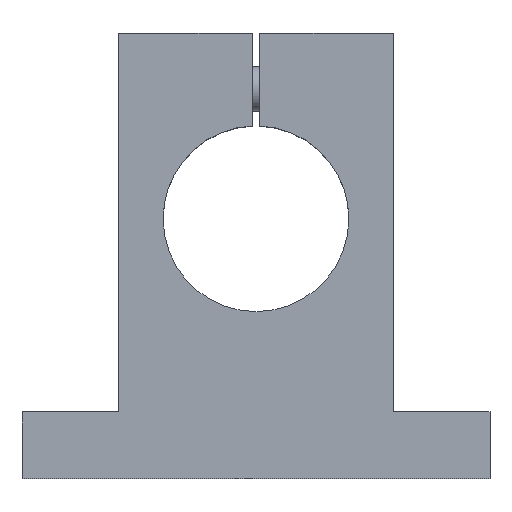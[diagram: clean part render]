
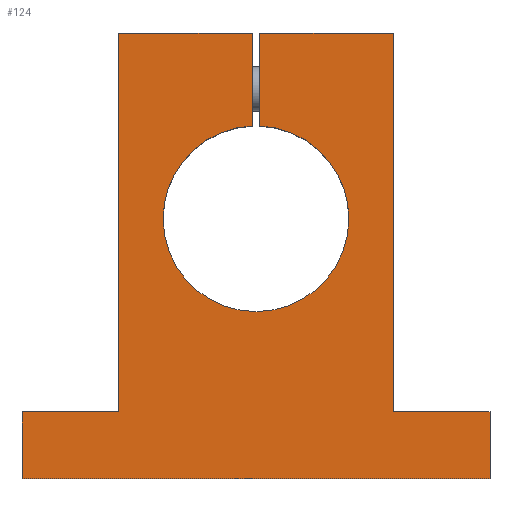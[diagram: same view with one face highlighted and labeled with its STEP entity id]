
A CAD part, top view. The second image highlights one B-rep face of the part: STEP entity #124.
In plain terms, the highlighted planar face has unit normal (0, 0, 1).
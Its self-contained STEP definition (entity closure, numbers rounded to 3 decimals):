
#124=ADVANCED_FACE('',(#161),#162,.F.);
#161=FACE_OUTER_BOUND('',#249,.T.);
#162=PLANE('',#250);
#249=EDGE_LOOP('',(#342,#343,#344,#345,#346,#347,#348,#349,#350,#351,#352,#353));
#250=AXIS2_PLACEMENT_3D('',#354,#355,#356);
#342=ORIENTED_EDGE('',*,*,#581,.T.);
#343=ORIENTED_EDGE('',*,*,#582,.T.);
#344=ORIENTED_EDGE('',*,*,#583,.T.);
#345=ORIENTED_EDGE('',*,*,#584,.T.);
#346=ORIENTED_EDGE('',*,*,#585,.T.);
#347=ORIENTED_EDGE('',*,*,#586,.T.);
#348=ORIENTED_EDGE('',*,*,#587,.T.);
#349=ORIENTED_EDGE('',*,*,#588,.T.);
#350=ORIENTED_EDGE('',*,*,#589,.T.);
#351=ORIENTED_EDGE('',*,*,#590,.T.);
#352=ORIENTED_EDGE('',*,*,#591,.T.);
#353=ORIENTED_EDGE('',*,*,#579,.T.);
#354=CARTESIAN_POINT('',(0.0,70.0,40.0));
#355=DIRECTION('',(0.0,0.0,-1.0));
#356=DIRECTION('',(1.0,0.,0.0));
#579=EDGE_CURVE('',#653,#651,#654,.T.);
#581=EDGE_CURVE('',#651,#656,#657,.T.);
#582=EDGE_CURVE('',#656,#658,#659,.T.);
#583=EDGE_CURVE('',#658,#660,#661,.T.);
#584=EDGE_CURVE('',#660,#662,#663,.T.);
#585=EDGE_CURVE('',#662,#664,#665,.T.);
#586=EDGE_CURVE('',#664,#666,#667,.T.);
#587=EDGE_CURVE('',#666,#668,#669,.T.);
#588=EDGE_CURVE('',#668,#670,#671,.T.);
#589=EDGE_CURVE('',#670,#672,#673,.T.);
#590=EDGE_CURVE('',#672,#674,#675,.T.);
#591=EDGE_CURVE('',#674,#653,#676,.T.);
#651=VERTEX_POINT('',#774);
#653=VERTEX_POINT('',#777);
#654=LINE('',#778,#779);
#656=VERTEX_POINT('',#782);
#657=LINE('',#783,#784);
#658=VERTEX_POINT('',#785);
#659=LINE('',#786,#787);
#660=VERTEX_POINT('',#788);
#661=LINE('',#789,#790);
#662=VERTEX_POINT('',#791);
#663=LINE('',#792,#793);
#664=VERTEX_POINT('',#794);
#665=LINE('',#795,#796);
#666=VERTEX_POINT('',#797);
#667=LINE('',#798,#799);
#668=VERTEX_POINT('',#800);
#669=LINE('',#801,#802);
#670=VERTEX_POINT('',#803);
#671=LINE('',#804,#805);
#672=VERTEX_POINT('',#806);
#673=LINE('',#807,#808);
#674=VERTEX_POINT('',#809);
#675=LINE('',#810,#811);
#676=CIRCLE('',#812,25.0);
#774=CARTESIAN_POINT('',(-1.0,120.0,40.0));
#777=CARTESIAN_POINT('',(-1.,94.98,40.0));
#778=CARTESIAN_POINT('',(-1.0,94.98,40.0));
#779=VECTOR('',#980,1.0);
#782=CARTESIAN_POINT('',(-37.0,120.0,40.0));
#783=CARTESIAN_POINT('',(-1.,120.0,40.0));
#784=VECTOR('',#982,1.0);
#785=CARTESIAN_POINT('',(-37.0,18.0,40.0));
#786=CARTESIAN_POINT('',(-37.0,120.0,40.0));
#787=VECTOR('',#983,1.0);
#788=CARTESIAN_POINT('',(-63.0,18.0,40.0));
#789=CARTESIAN_POINT('',(-37.0,18.0,40.0));
#790=VECTOR('',#984,1.0);
#791=CARTESIAN_POINT('',(-63.0,0.0,40.0));
#792=CARTESIAN_POINT('',(-63.0,18.0,40.0));
#793=VECTOR('',#985,1.0);
#794=CARTESIAN_POINT('',(63.0,0.0,40.0));
#795=CARTESIAN_POINT('',(-63.0,0.,40.0));
#796=VECTOR('',#986,1.0);
#797=CARTESIAN_POINT('',(63.0,18.0,40.0));
#798=CARTESIAN_POINT('',(63.0,0.0,40.0));
#799=VECTOR('',#987,1.0);
#800=CARTESIAN_POINT('',(37.0,18.0,40.0));
#801=CARTESIAN_POINT('',(63.0,18.0,40.0));
#802=VECTOR('',#988,1.0);
#803=CARTESIAN_POINT('',(37.0,120.0,40.0));
#804=CARTESIAN_POINT('',(37.0,18.0,40.0));
#805=VECTOR('',#989,1.0);
#806=CARTESIAN_POINT('',(1.,120.0,40.0));
#807=CARTESIAN_POINT('',(37.0,120.0,40.0));
#808=VECTOR('',#990,1.0);
#809=CARTESIAN_POINT('',(1.0,94.98,40.0));
#810=CARTESIAN_POINT('',(1.0,120.0,40.0));
#811=VECTOR('',#991,1.0);
#812=AXIS2_PLACEMENT_3D('',#992,#993,#994);
#980=DIRECTION('',(0.,1.0,0.0));
#982=DIRECTION('',(-1.0,0.0,0.0));
#983=DIRECTION('',(0.,-1.0,0.0));
#984=DIRECTION('',(-1.0,0.0,0.0));
#985=DIRECTION('',(0.,-1.0,0.0));
#986=DIRECTION('',(1.0,0.0,0.0));
#987=DIRECTION('',(0.,1.0,0.0));
#988=DIRECTION('',(-1.0,0.0,0.0));
#989=DIRECTION('',(0.,1.0,0.0));
#990=DIRECTION('',(-1.0,0.0,0.0));
#991=DIRECTION('',(0.,-1.0,0.0));
#992=CARTESIAN_POINT('',(0.0,70.0,40.0));
#993=DIRECTION('',(0.0,0.0,-1.0));
#994=DIRECTION('',(1.0,0.,0.0));
